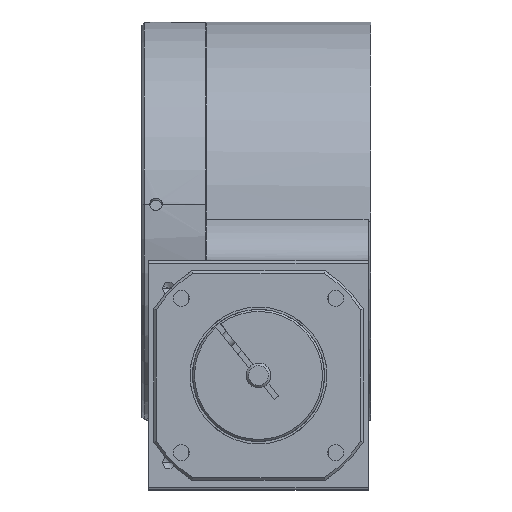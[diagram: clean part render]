
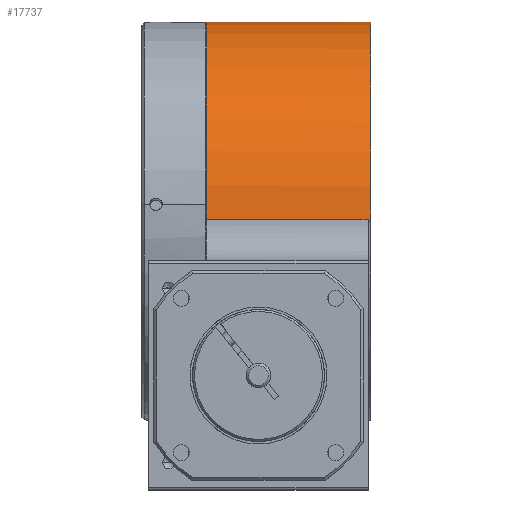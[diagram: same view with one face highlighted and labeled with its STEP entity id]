
A CAD part, left-side view. The second image highlights one B-rep face of the part: STEP entity #17737.
In plain terms, the highlighted cylindrical face has radius 40 mm (diameter 80 mm), a partial arc.
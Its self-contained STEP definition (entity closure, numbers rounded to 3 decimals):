
#1284 = VECTOR ( 'NONE', #38923, 1000. ) ;
#1851 = CARTESIAN_POINT ( 'NONE',  ( 0., 33., 0. ) ) ;
#2278 = CARTESIAN_POINT ( 'NONE',  ( 40., 0.5, 0. ) ) ;
#4220 = ORIENTED_EDGE ( 'NONE', *, *, #59840, .F. ) ;
#4459 = CIRCLE ( 'NONE', #24060, 40. ) ;
#4491 = EDGE_LOOP ( 'NONE', ( #8186, #4220, #10863, #10375, #20988, #54468, #25043 ) ) ;
#4874 = DIRECTION ( 'NONE',  ( 0., -1., 0. ) ) ;
#5062 = EDGE_CURVE ( 'NONE', #36484, #54696, #42840, .T. ) ;
#5661 = CIRCLE ( 'NONE', #64504, 40. ) ;
#5711 = DIRECTION ( 'NONE',  ( 0., -1., 0. ) ) ;
#6566 = EDGE_CURVE ( 'NONE', #33536, #10576, #12924, .T. ) ;
#6593 = VERTEX_POINT ( 'NONE', #29977 ) ;
#6916 = DIRECTION ( 'NONE',  ( 1., 0., 0. ) ) ;
#8186 = ORIENTED_EDGE ( 'NONE', *, *, #6566, .F. ) ;
#10375 = ORIENTED_EDGE ( 'NONE', *, *, #28525, .T. ) ;
#10481 = VECTOR ( 'NONE', #4874, 1000. ) ;
#10576 = VERTEX_POINT ( 'NONE', #27411 ) ;
#10863 = ORIENTED_EDGE ( 'NONE', *, *, #25722, .F. ) ;
#12924 = LINE ( 'NONE', #34824, #64614 ) ;
#13952 = CARTESIAN_POINT ( 'NONE',  ( -40., 44.5, 0. ) ) ;
#14648 = DIRECTION ( 'NONE',  ( 0., 1., 0. ) ) ;
#14866 = DIRECTION ( 'NONE',  ( 0., -1., 0. ) ) ;
#17737 = ADVANCED_FACE ( 'NONE', ( #45668 ), #30778, .T. ) ;
#17746 = DIRECTION ( 'NONE',  ( 0., 1., 0. ) ) ;
#20988 = ORIENTED_EDGE ( 'NONE', *, *, #34989, .F. ) ;
#24060 = AXIS2_PLACEMENT_3D ( 'NONE', #1851, #36906, #6916 ) ;
#25043 = ORIENTED_EDGE ( 'NONE', *, *, #44701, .T. ) ;
#25722 = EDGE_CURVE ( 'NONE', #46261, #6593, #4459, .T. ) ;
#25756 = CARTESIAN_POINT ( 'NONE',  ( -39.998, 0.5, 0.412 ) ) ;
#27411 = CARTESIAN_POINT ( 'NONE',  ( 40., 0., 0. ) ) ;
#28525 = EDGE_CURVE ( 'NONE', #46261, #53081, #38688, .T. ) ;
#29977 = CARTESIAN_POINT ( 'NONE',  ( 40., 33., 0. ) ) ;
#30778 = CYLINDRICAL_SURFACE ( 'NONE', #41338, 40. ) ;
#30885 = DIRECTION ( 'NONE',  ( -1., 0., 0. ) ) ;
#32018 = VECTOR ( 'NONE', #33841, 1000. ) ;
#33536 = VERTEX_POINT ( 'NONE', #2278 ) ;
#33841 = DIRECTION ( 'NONE',  ( 0., -1., 0. ) ) ;
#34824 = CARTESIAN_POINT ( 'NONE',  ( 40., 44.5, 0. ) ) ;
#34989 = EDGE_CURVE ( 'NONE', #36484, #53081, #47856, .T. ) ;
#35554 = CARTESIAN_POINT ( 'NONE',  ( -39.998, 33., 0.412 ) ) ;
#36484 = VERTEX_POINT ( 'NONE', #64920 ) ;
#36906 = DIRECTION ( 'NONE',  ( 0., 1., 0. ) ) ;
#38688 = LINE ( 'NONE', #54813, #10481 ) ;
#38923 = DIRECTION ( 'NONE',  ( 0., -1., 0. ) ) ;
#39989 = CARTESIAN_POINT ( 'NONE',  ( -40., 0., 0. ) ) ;
#41338 = AXIS2_PLACEMENT_3D ( 'NONE', #60863, #5711, #30885 ) ;
#42840 = LINE ( 'NONE', #13952, #1284 ) ;
#44666 = CARTESIAN_POINT ( 'NONE',  ( 0., 0.5, 0. ) ) ;
#44701 = EDGE_CURVE ( 'NONE', #54696, #10576, #5661, .T. ) ;
#45668 = FACE_OUTER_BOUND ( 'NONE', #4491, .T. ) ;
#46261 = VERTEX_POINT ( 'NONE', #35554 ) ;
#46892 = LINE ( 'NONE', #53771, #32018 ) ;
#47780 = CARTESIAN_POINT ( 'NONE',  ( 0., 0., 0. ) ) ;
#47856 = CIRCLE ( 'NONE', #64265, 40. ) ;
#49695 = DIRECTION ( 'NONE',  ( -1., 0., 0. ) ) ;
#52811 = DIRECTION ( 'NONE',  ( 1., 0., 0. ) ) ;
#53081 = VERTEX_POINT ( 'NONE', #25756 ) ;
#53771 = CARTESIAN_POINT ( 'NONE',  ( 40., 44.5, 0. ) ) ;
#54468 = ORIENTED_EDGE ( 'NONE', *, *, #5062, .T. ) ;
#54696 = VERTEX_POINT ( 'NONE', #39989 ) ;
#54813 = CARTESIAN_POINT ( 'NONE',  ( -39.998, 44.5, 0.412 ) ) ;
#59840 = EDGE_CURVE ( 'NONE', #6593, #33536, #46892, .T. ) ;
#60863 = CARTESIAN_POINT ( 'NONE',  ( 0., 44.5, 0. ) ) ;
#64265 = AXIS2_PLACEMENT_3D ( 'NONE', #44666, #14648, #49695 ) ;
#64504 = AXIS2_PLACEMENT_3D ( 'NONE', #47780, #17746, #52811 ) ;
#64614 = VECTOR ( 'NONE', #14866, 1000. ) ;
#64920 = CARTESIAN_POINT ( 'NONE',  ( -40., 0.5, 0. ) ) ;
